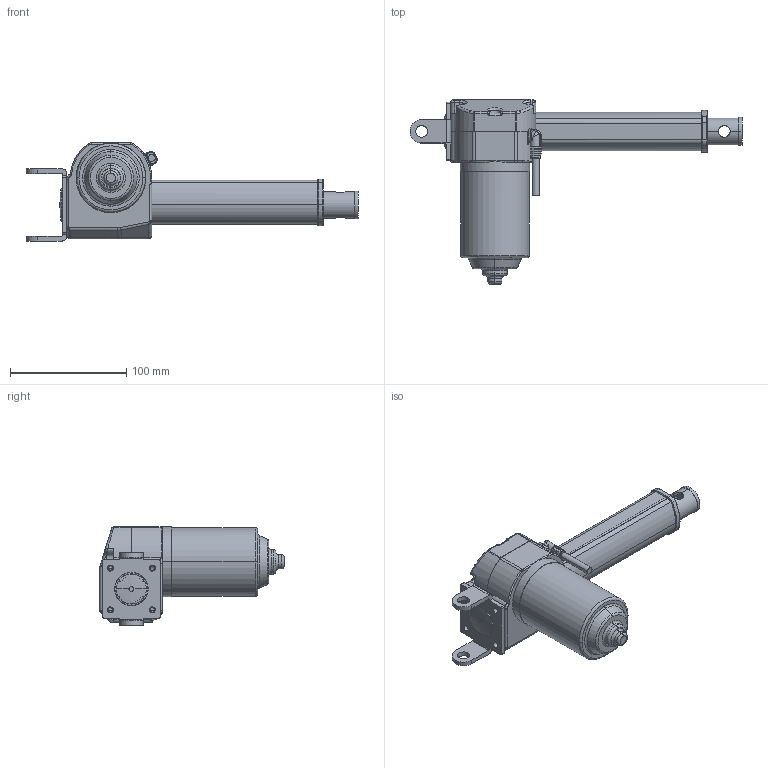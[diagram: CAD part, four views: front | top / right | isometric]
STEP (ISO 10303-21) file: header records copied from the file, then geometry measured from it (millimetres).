
FILE_DESCRIPTION((''),'2;1');
FILE_NAME('ASM0003_ASM','2024-05-07T',('USER'),(''),'PRO/ENGINEER BY PARAMETRIC TECHNOLOGY CORPORATION, 2008090','PRO/ENGINEER BY PARAMETRIC TECHNOLOGY CORPORATION, 2008090','');
FILE_SCHEMA(('CONFIG_CONTROL_DESIGN'));
Length unit declared in the file: millimetre
Products named in the file (3): PRT0001; PRT0002; ASM0003_ASM
Assembly tree (2 placements, depth 2):
  ASM0003_ASM
    PRT0001
    PRT0002
Bounding box: 285.3 x 158.2 x 84.3 mm (x, y, z)
Surface area: 215480.7 mm2 (no closed solid volume)
Topology: 0 solids, 9 shells, 1983 faces, 5598 edges, 3699 vertices
Faces by surface type: plane 1152, cylinder 530, bspline 140, torus 83, cone 61, sphere 15, extrusion 2
Entity records: 71850 total; most frequent: CARTESIAN_POINT 20024, ORIENTED_EDGE 11106, DIRECTION 10563, EDGE_CURVE 5577, VERTEX_POINT 3697, AXIS2_PLACEMENT_3D 3641, VECTOR 3281, LINE 3279
